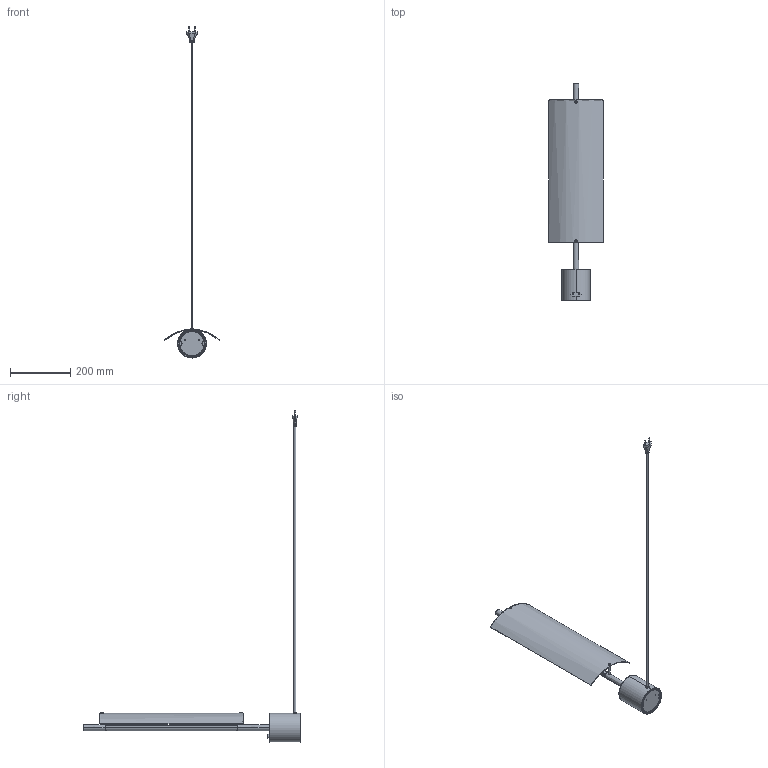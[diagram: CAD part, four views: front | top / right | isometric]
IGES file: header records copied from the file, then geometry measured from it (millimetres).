
Start section: SolidWorks IGES file using analytic representation for surfaces
Global section: file name: C:\SANTACOLE_PDM\Proyectos Catálogo\PROD-P21-004 -- LAMINA VERTICAL\6_Técnico comercial\3D\IGES\Lamina 45 sobremesa.IGS; native system: SolidWorks 2021; preprocessor: SolidWorks 2021; author: clara.galimany; date: 221216.155332; units: millimetre
Bounding box: 181.07 x 723.15 x 1102.71 mm (x, y, z)
Surface area: 379553.3 mm2 (no closed solid volume)
Topology: 0 solids, 0 shells, 479 faces, 5219 edges, 5207 vertices
Faces by surface type: revolution 247, bspline 232
